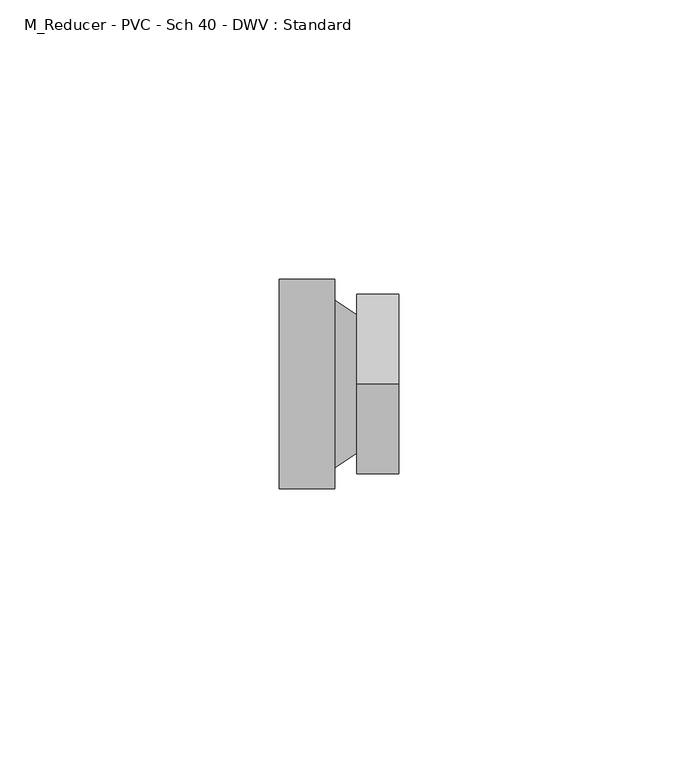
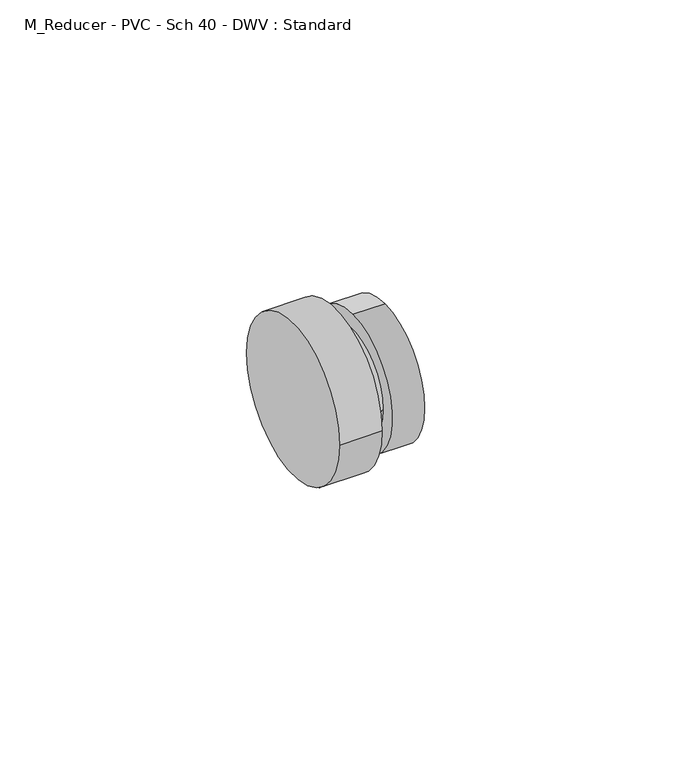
"""IFC4 building model written with IfcOpenShell, lengths in millimetres: pipe fitting geometry, M_Reducer - PVC - Sch 40 - DWV : Standard."""

from ifc_helpers import new_model, si_unit, frame, origin, place, context, project, spatial, polyline, circle_curve, source, transform, mapped, element, save
from ifc_brep_helpers import plane_surface, cylinder_surface, revolved_surface, advanced_brep


def m_reducer_pvc_sch_40_dwv_standard_435e6c66(model_context):
    return source(origin(), model_context, "Body", "AdvancedBrep", [
        advanced_brep(
        [(0.0, -18.7871094, 0.0), (0.0, 18.7871094, 0.0), (10.0, -18.7871094, 0.0), (10.0, 18.7871094, 0.0), (10.0, 14.9640625, 0.0), (10.0, -14.9640625, 0.0), (13.9460938, 12.3640625, 0.0), (13.9460937, -12.3640625, 0.0), (13.9460938, 0.0, 16.0871094), (13.9460938, 0.0, -16.0871094), (21.4460938, 0.0, 16.0871094), (21.4460938, 0.0, -16.0871094)],
        [
            (0, 1, circle_curve(frame((0.0, 0.0, 0.0), z_axis=(-1.0, 0.0, 0.0), x_axis=(0.0, 1.0, 0.0)), 18.7871094)),
            (1, 0, circle_curve(frame((0.0, 0.0, 0.0), z_axis=(-1.0, 0.0, 0.0), x_axis=(0.0, 1.0, 0.0)), 18.7871094)),
            (2, 3, circle_curve(frame((10.0, 0.0, 0.0), z_axis=(1.0, 0.0, 0.0), x_axis=(0.0, 1.0, 0.0)), 18.7871094)),
            (3, 2, circle_curve(frame((10.0, 0.0, 0.0), z_axis=(1.0, 0.0, 0.0), x_axis=(0.0, 1.0, 0.0)), 18.7871094)),
            (4, 5, circle_curve(frame((10.0, 0.0, 0.0), z_axis=(-1.0, 1.49213130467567e-12, 0.0), x_axis=(-1.4922291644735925e-12, -1.0, 0.0)), 14.9640625)),
            (5, 4, circle_curve(frame((10.0, 0.0, 0.0), z_axis=(-1.0, 1.49213130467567e-12, 0.0), x_axis=(1.4922291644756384e-12, 1.0, 0.0)), 14.9640625)),
            (0, 2),
            (3, 1),
            (4, 6),
            (6, 7, circle_curve(frame((13.9460938, 0.0, 0.0), z_axis=(-1.0, 1.49213130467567e-12, 0.0), x_axis=(-1.4922291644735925e-12, -1.0, 0.0)), 12.3640625)),
            (7, 5),
            (7, 6, circle_curve(frame((13.9460938, 0.0, 0.0), z_axis=(-1.0, 1.49213130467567e-12, 0.0), x_axis=(1.4922291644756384e-12, 1.0, 0.0)), 12.3640625)),
            (8, 9, circle_curve(frame((13.9460938, 0.0, 0.0), z_axis=(-1.0, 0.0, 0.0), x_axis=(0.0, 0.0, -1.0)), 16.0871094)),
            (9, 8, circle_curve(frame((13.9460938, 0.0, 0.0), z_axis=(-1.0, 0.0, 0.0), x_axis=(0.0, 0.0, -1.0)), 16.0871094)),
            (10, 11, circle_curve(frame((21.4460938, 0.0, 0.0), z_axis=(1.0, 0.0, 0.0), x_axis=(0.0, 0.0, -1.0)), 16.0871094)),
            (11, 10, circle_curve(frame((21.4460938, 0.0, 0.0), z_axis=(1.0, 0.0, 0.0), x_axis=(0.0, 0.0, -1.0)), 16.0871094)),
            (8, 10),
            (11, 9),
        ],
        [
            plane_surface(frame((0.0, 0.0, 0.0), z_axis=(-1.0, 0.0, 0.0), x_axis=(0.0, 0.0, 1.0))),
            plane_surface(frame((10.0, 0.0, 0.0), z_axis=(1.0, 0.0, 0.0), x_axis=(0.0, 0.0, 1.0))),
            cylinder_surface(frame((0.0, 0.0, 0.0), z_axis=(-1.0, 0.0, 0.0), x_axis=(0.0, 1.0, 0.0)), 18.7871094),
            revolved_surface(polyline([(13.94609380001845, 12.36406246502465, 0.0), (10.0, 14.9640625, 0.0)]), (32.7113821, 0.0, 0.0), (-1.0, 1.49213130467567e-12, 0.0)),
            plane_surface(frame((13.9460938, 0.0, 0.0), z_axis=(-1.0, 0.0, 0.0), x_axis=(0.0, 1.0, 0.0))),
            plane_surface(frame((21.4460938, 0.0, 0.0), z_axis=(1.0, 0.0, 0.0), x_axis=(0.0, 1.0, 0.0))),
            cylinder_surface(frame((13.9460938, 0.0, 0.0), z_axis=(-1.0, 0.0, 0.0), x_axis=(0.0, 0.0, -1.0)), 16.0871094),
        ],
        [
            (0, [[1, 2]]),
            (1, [[3, 4], [5, 6]]),
            (2, [[-1, 7, -4, 8]]),
            (2, [[-2, -8, -3, -7]]),
            (3, [[9, 10, 11, -5]]),
            (3, [[-9, -6, -11, 12]]),
            (4, [[13, 14], [-10, -12]]),
            (5, [[15, 16]]),
            (6, [[-13, 17, -16, 18]]),
            (6, [[-14, -18, -15, -17]]),
        ],
    ),
    ])


if __name__ == "__main__":
    model = new_model("IFC4")
    model_context = context("Model", 3, world=origin())
    ifc_project = project(units=[si_unit("LENGTHUNIT", "METRE", prefix="MILLI")], contexts=[model_context])
    site = spatial("IfcSite", under=ifc_project)
    building = spatial("IfcBuilding", under=site)
    placement = place(None, origin())
    m_reducer_pvc_sch_40_dwv_standard_shape = m_reducer_pvc_sch_40_dwv_standard_435e6c66(model_context)
    element("IfcPipeFitting", 1, ObjectType="M_Reducer - PVC - Sch 40 - DWV : Standard", at=placement, inside=building, context=model_context, shape_type="MappedRepresentation", body=[
        mapped(m_reducer_pvc_sch_40_dwv_standard_shape, transform((0.0, 0.0, 0.0), x_axis=(1.0, 0.0, 0.0), y_axis=(0.0, 1.0, 0.0), z_axis=(0.0, 0.0, 1.0))),
    ])
    save(model, "model.ifc")
